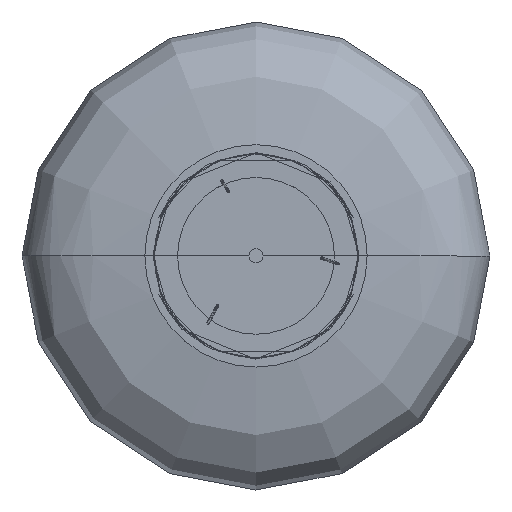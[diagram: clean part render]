
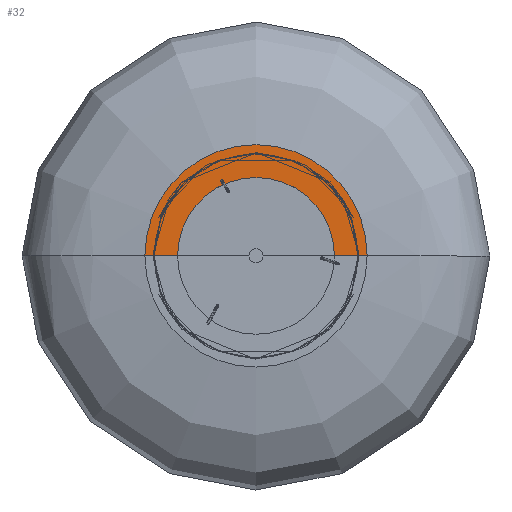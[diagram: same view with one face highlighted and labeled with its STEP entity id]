
A CAD part, top view. The second image highlights one B-rep face of the part: STEP entity #32.
In plain terms, the highlighted planar face has unit normal (0, 0, 1).
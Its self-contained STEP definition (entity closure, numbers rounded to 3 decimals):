
#16=FACE_BOUND('',#79,.T.);
#32=ADVANCED_FACE('',(#54,#16),#339,.T.);
#54=FACE_OUTER_BOUND('',#78,.T.);
#78=EDGE_LOOP('',(#149,#150,#151,#152));
#79=EDGE_LOOP('',(#153,#154));
#149=ORIENTED_EDGE('',*,*,#213,.T.);
#150=ORIENTED_EDGE('',*,*,#187,.T.);
#151=ORIENTED_EDGE('',*,*,#215,.F.);
#152=ORIENTED_EDGE('',*,*,#214,.F.);
#153=ORIENTED_EDGE('',*,*,#227,.F.);
#154=ORIENTED_EDGE('',*,*,#201,.F.);
#187=EDGE_CURVE('',#304,#303,#246,.T.);
#201=EDGE_CURVE('',#311,#325,#235,.T.);
#213=EDGE_CURVE('',#318,#304,#276,.T.);
#214=EDGE_CURVE('',#318,#319,#255,.T.);
#215=EDGE_CURVE('',#319,#303,#277,.T.);
#227=EDGE_CURVE('',#325,#311,#241,.T.);
#235=B_SPLINE_CURVE_WITH_KNOTS('',3,(#1781,#1782,#1783,#1784,#1785,#1786,
#1787,#1788,#1789,#1790,#1791,#1792,#1793,#1794,#1795,#1796,#1797,#1798,
#1799,#1800,#1801,#1802,#1803,#1804),.UNSPECIFIED.,.F.,.F.,(4,3,3,3,3,3,
3,2,4),(0.,0.379,0.79,1.202,1.581,
1.96,2.371,2.767,3.162),
 .UNSPECIFIED.);
#241=B_SPLINE_CURVE_WITH_KNOTS('',3,(#2127,#2128,#2129,#2130,#2131,#2132,
#2133,#2134,#2135,#2136,#2137,#2138,#2139,#2140,#2141,#2142,#2143,#2144,
#2145,#2146,#2147,#2148,#2149),.UNSPECIFIED.,.F.,.F.,(4,2,3,3,3,3,3,2,4),
(3.162,3.557,3.952,4.363,4.743,
5.122,5.533,5.928,6.323),
 .UNSPECIFIED.);
#246=(
BOUNDED_CURVE()
B_SPLINE_CURVE(5,(#1600,#1601,#1602,#1603,#1604,#1605),.UNSPECIFIED.,.F.,
 .F.)
B_SPLINE_CURVE_WITH_KNOTS((6,6),(94.981,208.056),
 .UNSPECIFIED.)
CURVE()
GEOMETRIC_REPRESENTATION_ITEM()
RATIONAL_B_SPLINE_CURVE((1.,1.,1.,1.,1.,1.))
REPRESENTATION_ITEM('')
);
#255=(
BOUNDED_CURVE()
B_SPLINE_CURVE(5,(#1899,#1900,#1901,#1902,#1903,#1904),.UNSPECIFIED.,.F.,
 .F.)
B_SPLINE_CURVE_WITH_KNOTS((6,6),(94.981,208.056),
 .UNSPECIFIED.)
CURVE()
GEOMETRIC_REPRESENTATION_ITEM()
RATIONAL_B_SPLINE_CURVE((1.,1.,1.,1.,1.,1.))
REPRESENTATION_ITEM('')
);
#276=TRIMMED_CURVE($,#294,(#1897),(#1898),.T.,.CARTESIAN.);
#277=TRIMMED_CURVE($,#295,(#1906),(#1907),.T.,.CARTESIAN.);
#294=CIRCLE('',#466,95.);
#295=CIRCLE('',#467,67.);
#303=VERTEX_POINT('',#1512);
#304=VERTEX_POINT('',#1513);
#311=VERTEX_POINT('',#1520);
#318=VERTEX_POINT('',#1527);
#319=VERTEX_POINT('',#1528);
#325=VERTEX_POINT('',#1534);
#339=PLANE('',#448);
#448=AXIS2_PLACEMENT_3D('',#1181,#483,$);
#466=AXIS2_PLACEMENT_3D($,#1896,#515,#516);
#467=AXIS2_PLACEMENT_3D($,#1905,#517,#518);
#483=DIRECTION('',(0.,0.,1.));
#515=DIRECTION('',(0.,0.,1.));
#516=DIRECTION('',(1.,0.,0.));
#517=DIRECTION('',(0.,0.,1.));
#518=DIRECTION('',(1.,0.,0.));
#1181=CARTESIAN_POINT('',(95.,0.,-2.));
#1512=CARTESIAN_POINT('',(-67.,0.,-2.));
#1513=CARTESIAN_POINT('',(-95.,0.,-2.));
#1520=CARTESIAN_POINT('',(-28.801,63.27,-2.));
#1527=CARTESIAN_POINT('',(95.,0.,-2.));
#1528=CARTESIAN_POINT('',(67.,0.,-2.));
#1534=CARTESIAN_POINT('',(-29.63,65.09,-2.));
#1600=CARTESIAN_POINT('',(-95.,0.,-2.));
#1601=CARTESIAN_POINT('',(-89.4,0.,-2.));
#1602=CARTESIAN_POINT('',(-83.8,0.,-2.));
#1603=CARTESIAN_POINT('',(-78.2,0.,-2.));
#1604=CARTESIAN_POINT('',(-72.6,0.,-2.));
#1605=CARTESIAN_POINT('',(-67.,0.,-2.));
#1781=CARTESIAN_POINT('',(-28.801,63.27,-2.));
#1782=CARTESIAN_POINT('',(-28.687,63.322,-2.));
#1783=CARTESIAN_POINT('',(-28.583,63.396,-2.));
#1784=CARTESIAN_POINT('',(-28.495,63.487,-2.));
#1785=CARTESIAN_POINT('',(-28.401,63.585,-2.));
#1786=CARTESIAN_POINT('',(-28.327,63.702,-2.));
#1787=CARTESIAN_POINT('',(-28.279,63.83,-2.));
#1788=CARTESIAN_POINT('',(-28.231,63.958,-2.));
#1789=CARTESIAN_POINT('',(-28.21,64.094,-2.));
#1790=CARTESIAN_POINT('',(-28.217,64.23,-2.));
#1791=CARTESIAN_POINT('',(-28.223,64.356,-2.));
#1792=CARTESIAN_POINT('',(-28.253,64.48,-2.));
#1793=CARTESIAN_POINT('',(-28.305,64.595,-2.));
#1794=CARTESIAN_POINT('',(-28.358,64.709,-2.));
#1795=CARTESIAN_POINT('',(-28.431,64.813,-2.));
#1796=CARTESIAN_POINT('',(-28.522,64.9,-2.));
#1797=CARTESIAN_POINT('',(-28.62,64.995,-2.));
#1798=CARTESIAN_POINT('',(-28.737,65.069,-2.));
#1799=CARTESIAN_POINT('',(-28.865,65.117,-2.));
#1800=CARTESIAN_POINT('',(-28.988,65.163,-2.));
#1801=CARTESIAN_POINT('',(-29.119,65.184,-2.));
#1802=CARTESIAN_POINT('',(-29.381,65.175,-2.));
#1803=CARTESIAN_POINT('',(-29.51,65.145,-2.));
#1804=CARTESIAN_POINT('',(-29.63,65.09,-2.));
#1896=CARTESIAN_POINT('',(0.,0.,-2.));
#1897=CARTESIAN_POINT('',(95.,0.,-2.));
#1898=CARTESIAN_POINT('',(-95.,0.,-2.));
#1899=CARTESIAN_POINT('',(95.,0.,-2.));
#1900=CARTESIAN_POINT('',(89.4,0.,-2.));
#1901=CARTESIAN_POINT('',(83.8,0.,-2.));
#1902=CARTESIAN_POINT('',(78.2,0.,-2.));
#1903=CARTESIAN_POINT('',(72.6,0.,-2.));
#1904=CARTESIAN_POINT('',(67.,0.,-2.));
#1905=CARTESIAN_POINT('',(0.,0.,-2.));
#1906=CARTESIAN_POINT('',(67.,0.,-2.));
#1907=CARTESIAN_POINT('',(-67.,0.,-2.));
#2127=CARTESIAN_POINT('',(-29.63,65.09,-2.));
#2128=CARTESIAN_POINT('',(-29.749,65.036,-2.));
#2129=CARTESIAN_POINT('',(-29.857,64.958,-2.));
#2130=CARTESIAN_POINT('',(-30.036,64.766,-2.));
#2131=CARTESIAN_POINT('',(-30.106,64.654,-2.));
#2132=CARTESIAN_POINT('',(-30.152,64.531,-2.));
#2133=CARTESIAN_POINT('',(-30.2,64.403,-2.));
#2134=CARTESIAN_POINT('',(-30.221,64.266,-2.));
#2135=CARTESIAN_POINT('',(-30.214,64.13,-2.));
#2136=CARTESIAN_POINT('',(-30.208,64.004,-2.));
#2137=CARTESIAN_POINT('',(-30.178,63.881,-2.));
#2138=CARTESIAN_POINT('',(-30.126,63.766,-2.));
#2139=CARTESIAN_POINT('',(-30.073,63.651,-2.));
#2140=CARTESIAN_POINT('',(-30.,63.547,-2.));
#2141=CARTESIAN_POINT('',(-29.909,63.46,-2.));
#2142=CARTESIAN_POINT('',(-29.811,63.365,-2.));
#2143=CARTESIAN_POINT('',(-29.694,63.292,-2.));
#2144=CARTESIAN_POINT('',(-29.566,63.244,-2.));
#2145=CARTESIAN_POINT('',(-29.443,63.198,-2.));
#2146=CARTESIAN_POINT('',(-29.312,63.176,-2.));
#2147=CARTESIAN_POINT('',(-29.05,63.185,-2.));
#2148=CARTESIAN_POINT('',(-28.921,63.216,-2.));
#2149=CARTESIAN_POINT('',(-28.801,63.27,-2.));
